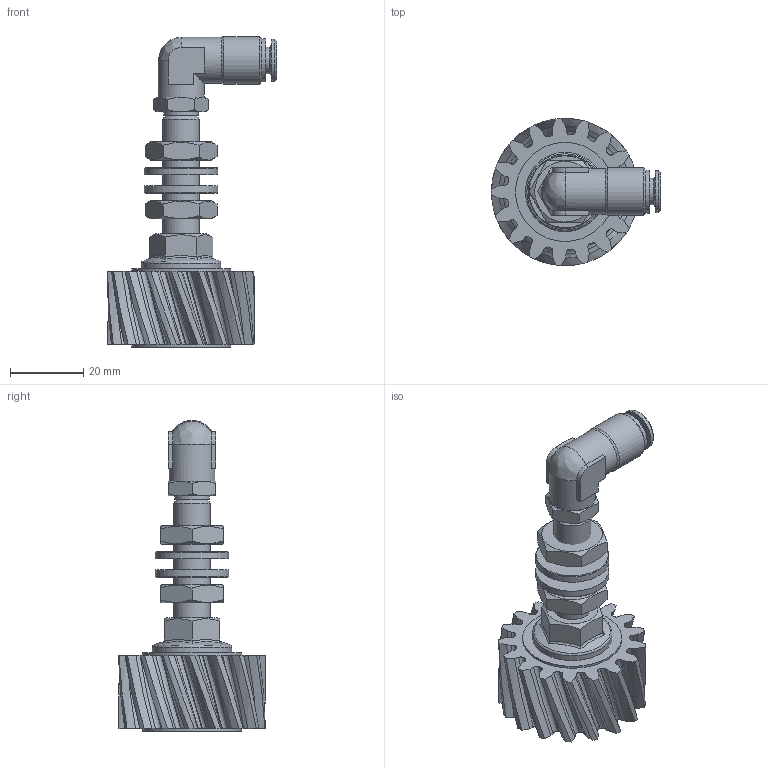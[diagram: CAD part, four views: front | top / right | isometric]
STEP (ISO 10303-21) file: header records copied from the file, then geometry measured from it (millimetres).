
FILE_DESCRIPTION (( 'STEP AP214' ), '1' );
FILE_NAME ('012_13_02_20_17ALZ.STEP', '2026-04-14T13:23:17', ( '' ), ( '' ), 'SwSTEP 2.0', 'SolidWorks 2022', '' );
FILE_SCHEMA (( 'AUTOMOTIVE_DESIGN' ));
Length unit declared in the file: millimetre
Products named in the file (13): 12012_06_01_Scheibe-CRS-VA_27.SLDASM; H214667-HDS_1-8_M6X1Z; 012_06_Senkschraube; 012_13_02_20_17ALZ; Modul_2_S_L; H202225_HDS_022_6_M6_28.09.22; DR6-C_HDX_25.07.16; OR 7.2X1.9; Achse_M10_1_Schmierzahnrad; Mutter_M10; U_Scheibe_10.5; R11155-N2
Assembly tree (14 placements, depth 4):
  012_13_02_20_17ALZ
    Achse_M10_1_Schmierzahnrad
    12012_06_01_Scheibe-CRS-VA_27.SLDASM
    012_06_Senkschraube
    Mutter_M10  x2
    U_Scheibe_10.5  x2
    H202225_HDS_022_6_M6_28.09.22
      R11155-N2
      DR6-C_HDX_25.07.16
      H214667-HDS_1-8_M6X1Z
        H214667-HDS_1-8_M6X1Z
        OR 7.2X1.9
    Modul_2_S_L
Bounding box: 46.05 x 40.05 x 84.7 mm (x, y, z)
Volume: 31926.2 mm3; surface area: 18152.1 mm2
Topology: 12 solids, 12 shells, 668 faces, 1795 edges, 1187 vertices
Faces by surface type: plane 328, bspline 231, cylinder 56, cone 49, torus 4
Full cylindrical faces by diameter (mm): 2 x1, 4 x1, 4.6 x1, 5 x1, 6 x2, 6.2 x1, 6.3 x1, 7.2 x1, 8.5 x2, 9 x2, 9.5 x1, 9.9 x1, 10 x2, 10.1 x2, 10.3 x1, 10.5 x2, 11.5 x1, 11.7 x1, 12.5 x2, 13 x1, 20 x2, 21.6 x1, 27 x2
Entity records: 54616 total; most frequent: CARTESIAN_POINT 38727, ORIENTED_EDGE 3284, DIRECTION 2168, EDGE_CURVE 1642, VERTEX_POINT 1119, VECTOR 990, LINE 990, EDGE_LOOP 769
